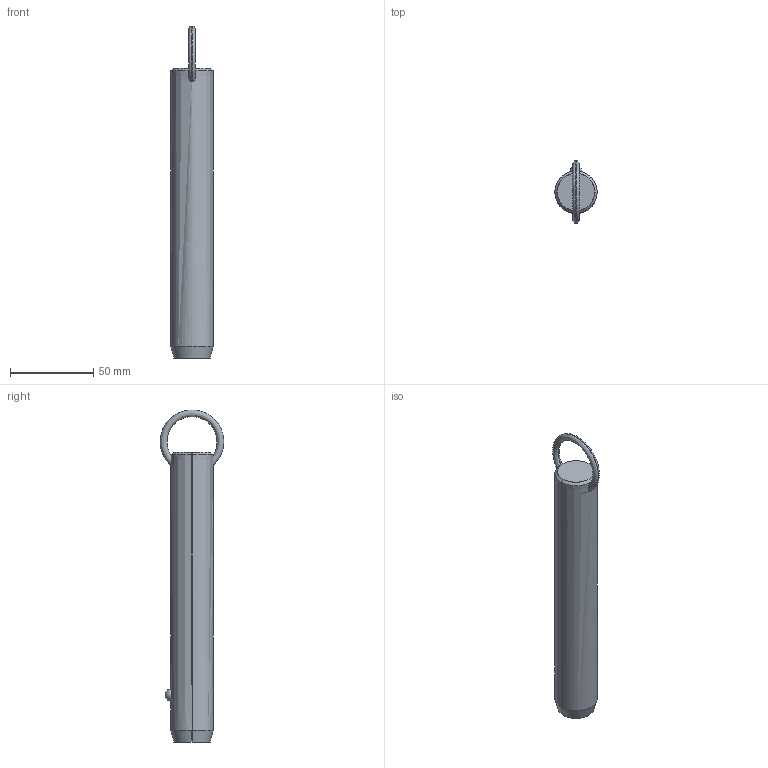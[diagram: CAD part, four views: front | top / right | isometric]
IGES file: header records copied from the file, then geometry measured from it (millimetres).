
Start section: SolidWorks IGES file using analytic representation for surfaces
Global section: file name: C:\Users\liam_\OneDrive\Documents\WORK\Work for WixRoyd\Job Files\J-00019 - Matt Davis CAD Checking\04. CAD Drawings\automotion20190605\P1250.2_v2\P1250.2_v2_20190729_IGES\P1250.100-510.igs; native system: SolidWorks 2017; preprocessor: SolidWorks 2017; author: liam_; date: 190730.174130; units: millimetre
Bounding box: 25.4 x 38.1 x 199.3 mm (x, y, z)
Surface area: 15649.9 mm2 (no closed solid volume)
Topology: 0 solids, 0 shells, 12 faces, 298 edges, 296 vertices
Faces by surface type: revolution 8, bspline 4
